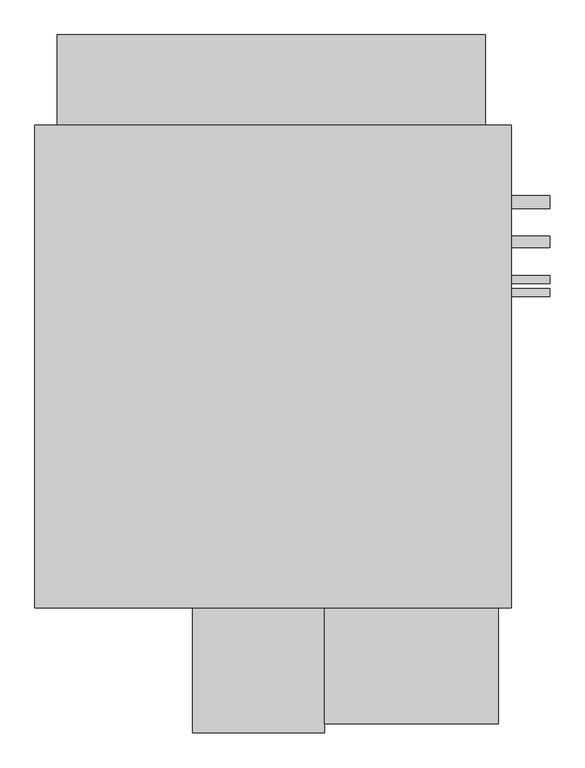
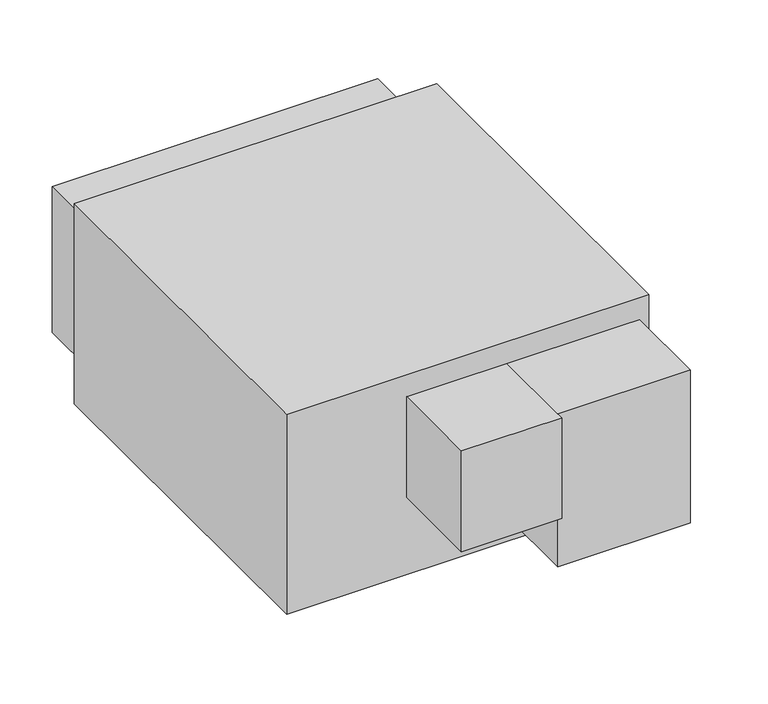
"""IFC4 building model written with IfcOpenShell, lengths in millimetres: proxy geometry, Horizontal_Direct_Drive_Blower_Coil_Unit_-_42DHA_-_CARRIER_-_4-Pipe_RH_2022 : Size 10 - 460v/60Hz/3Ph - 6/2 Coil."""

from ifc_helpers import new_model, si_unit, point, frame, frame_2d, origin, place, context, project, spatial, polyline, circle_curve, trimmed, segment, composite_curve, outline, extrude, source, transform, mapped, element, save


def mechanical_equipment_84091f5d(model_context):
    return source(origin(), model_context, "Body", "SweptSolid", [
        extrude(outline(polyline([(-127.0, 492.125), (-127.0, -460.375), (-1066.8, -460.375), (-1066.8, 492.125), (-127.0, 492.125)])), frame((0.0, 0.0, -549.2558174), z_axis=(0.0, 0.0, 1.0), x_axis=(1.0, 0.0, 0.0)), (0.0, 0.0, 1.0), 549.2558174),
        extrude(outline(polyline([(-152.4, -688.975), (-495.3, -688.975), (-495.3, -460.375), (-152.4, -460.375), (-152.4, -688.975)])), frame((0.0, 0.0, -479.4058174), z_axis=(0.0, 0.0, 1.0), x_axis=(1.0, 0.0, 0.0)), (0.0, 0.0, 1.0), 419.1),
        extrude(outline(composite_curve([segment(trimmed(circle_curve(frame_2d((339.725, -180.7500418)), 12.7), [point((352.425, -180.7500418))], [point((327.025, -180.7500418))], False, "CARTESIAN"), True, "CONTINUOUS"), segment(trimmed(circle_curve(frame_2d((339.725, -180.7500418)), 12.7), [point((327.025, -180.7500418))], [point((352.425, -180.7500418))], False, "CARTESIAN"), True, "CONTINUOUS")], self_intersect=False)), frame((-127.0, 0.0, 0.0), z_axis=(1.0, 0.0, 0.0), x_axis=(0.0, 1.0, 0.0)), (0.0, 0.0, 1.0), 76.2),
        extrude(outline(composite_curve([segment(trimmed(circle_curve(frame_2d((339.725, -422.2558174)), 12.7), [point((352.425, -422.2558174))], [point((327.025, -422.2558174))], False, "CARTESIAN"), True, "CONTINUOUS"), segment(trimmed(circle_curve(frame_2d((339.725, -422.2558174)), 12.7), [point((327.025, -422.2558174))], [point((352.425, -422.2558174))], False, "CARTESIAN"), True, "CONTINUOUS")], self_intersect=False)), frame((-127.0, 0.0, 0.0), z_axis=(1.0, 0.0, 0.0), x_axis=(0.0, 1.0, 0.0)), (0.0, 0.0, 1.0), 76.2),
        extrude(outline(composite_curve([segment(trimmed(circle_curve(frame_2d((261.7604089, -504.8058174)), 11.1125), [point((272.8729089, -504.8058174))], [point((250.6479089, -504.8058174))], False, "CARTESIAN"), True, "CONTINUOUS"), segment(trimmed(circle_curve(frame_2d((261.7604089, -504.8058174)), 11.1125), [point((250.6479089, -504.8058174))], [point((272.8729089, -504.8058174))], False, "CARTESIAN"), True, "CONTINUOUS")], self_intersect=False)), frame((-127.0, 0.0, 0.0), z_axis=(1.0, 0.0, 0.0), x_axis=(0.0, 1.0, 0.0)), (0.0, 0.0, 1.0), 76.2),
        extrude(outline(composite_curve([segment(trimmed(circle_curve(frame_2d((187.325, -231.7558174)), 7.9375), [point((195.2625, -231.7558174))], [point((179.3875, -231.7558174))], False, "CARTESIAN"), True, "CONTINUOUS"), segment(trimmed(circle_curve(frame_2d((187.325, -231.7558174)), 7.9375), [point((179.3875, -231.7558174))], [point((195.2625, -231.7558174))], False, "CARTESIAN"), True, "CONTINUOUS")], self_intersect=False)), frame((-127.0, 0.0, 0.0), z_axis=(1.0, 0.0, 0.0), x_axis=(0.0, 1.0, 0.0)), (0.0, 0.0, 1.0), 76.2),
        extrude(outline(composite_curve([segment(trimmed(circle_curve(frame_2d((161.925, -371.4558174)), 7.9375), [point((169.8625, -371.4558174))], [point((153.9875, -371.4558174))], False, "CARTESIAN"), True, "CONTINUOUS"), segment(trimmed(circle_curve(frame_2d((161.925, -371.4558174)), 7.9375), [point((153.9875, -371.4558174))], [point((169.8625, -371.4558174))], False, "CARTESIAN"), True, "CONTINUOUS")], self_intersect=False)), frame((-127.0, 0.0, 0.0), z_axis=(1.0, 0.0, 0.0), x_axis=(0.0, 1.0, 0.0)), (0.0, 0.0, 1.0), 76.2),
        extrude(outline(polyline([(-1022.35, 669.925), (-177.8, 669.925), (-177.8, 492.125), (-1022.35, 492.125), (-1022.35, 669.925)])), frame((0.0, 0.0, -476.2308174), z_axis=(0.0, 0.0, 1.0), x_axis=(1.0, 0.0, 0.0)), (0.0, 0.0, 1.0), 400.05),
        extrude(outline(polyline([(-495.3, -706.4375), (-755.65, -706.4375), (-755.65, -460.375), (-495.3, -460.375), (-495.3, -706.4375)])), frame((0.0, 0.0, -336.5308174), z_axis=(0.0, 0.0, 1.0), x_axis=(1.0, 0.0, 0.0)), (0.0, 0.0, 1.0), 276.225),
    ])


if __name__ == "__main__":
    model = new_model("IFC4")
    model_context = context("Model", 3, world=origin())
    ifc_project = project(units=[si_unit("LENGTHUNIT", "METRE", prefix="MILLI")], contexts=[model_context])
    site = spatial("IfcSite", under=ifc_project)
    building = spatial("IfcBuilding", under=site)
    placement = place(None, origin())
    mechanical_equipment_shape = mechanical_equipment_84091f5d(model_context)
    element("IfcBuildingElementProxy", 1, Name="Horizontal_Direct_Drive_Blower_Coil_Unit_-_42DHA_-_CARRIER_-_4-Pipe_RH_2022 : Size 10 - 460v/60Hz/3Ph - 6/2 Coil", ObjectType="Horizontal_Direct_Drive_Blower_Coil_Unit_-_42DHA_-_CARRIER_-_4-Pipe_RH_2022 : Size 10 - 460v/60Hz/3Ph - 6/2 Coil", at=placement, inside=building, context=model_context, shape_type="MappedRepresentation", body=[
        mapped(mechanical_equipment_shape, transform((0.0, 0.0, 0.0), x_axis=(1.0, 0.0, 0.0), y_axis=(0.0, 1.0, 0.0), z_axis=(0.0, 0.0, 1.0))),
    ])
    save(model, "model.ifc")
